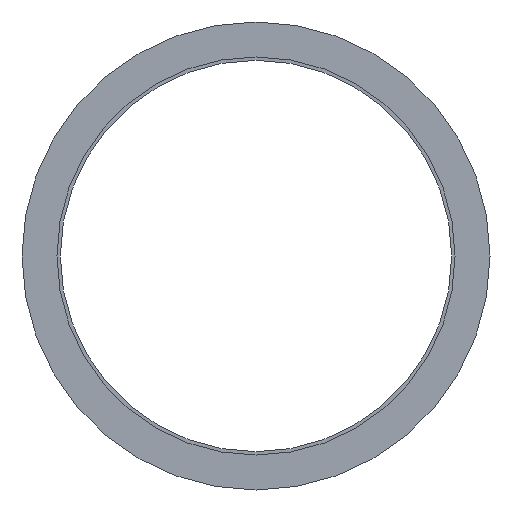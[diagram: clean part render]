
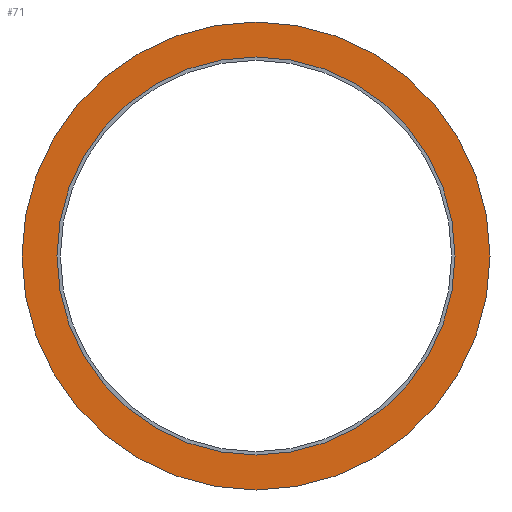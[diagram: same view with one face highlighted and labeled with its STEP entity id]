
A CAD part, front view. The second image highlights one B-rep face of the part: STEP entity #71.
In plain terms, the highlighted planar face has unit normal (0, -1, 0).
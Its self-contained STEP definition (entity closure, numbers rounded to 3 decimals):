
#27 = DIRECTION ( 'NONE',  ( 0., 0., -1. ) ) ;
#28 = VERTEX_POINT ( 'NONE', #40 ) ;
#40 = CARTESIAN_POINT ( 'NONE',  ( 0., 0., 76.55 ) ) ;
#41 = EDGE_CURVE ( 'NONE', #450, #205, #558, .T. ) ;
#50 = CARTESIAN_POINT ( 'NONE',  ( 0., 0., -90. ) ) ;
#71 = ADVANCED_FACE ( 'NONE', ( #531, #377 ), #181, .F. ) ;
#86 = CIRCLE ( 'NONE', #209, 90. ) ;
#96 = CARTESIAN_POINT ( 'NONE',  ( 0., 0., 0. ) ) ;
#142 = DIRECTION ( 'NONE',  ( 0., 0., 1. ) ) ;
#152 = CIRCLE ( 'NONE', #392, 76.55 ) ;
#160 = CIRCLE ( 'NONE', #546, 76.55 ) ;
#173 = EDGE_LOOP ( 'NONE', ( #186, #204 ) ) ;
#179 = EDGE_CURVE ( 'NONE', #28, #278, #152, .T. ) ;
#181 = PLANE ( 'NONE',  #583 ) ;
#183 = DIRECTION ( 'NONE',  ( 0., 0., -1. ) ) ;
#186 = ORIENTED_EDGE ( 'NONE', *, *, #345, .T. ) ;
#191 = DIRECTION ( 'NONE',  ( 0., -1., 0. ) ) ;
#204 = ORIENTED_EDGE ( 'NONE', *, *, #41, .T. ) ;
#205 = VERTEX_POINT ( 'NONE', #50 ) ;
#207 = DIRECTION ( 'NONE',  ( 0., 0., -1. ) ) ;
#209 = AXIS2_PLACEMENT_3D ( 'NONE', #304, #436, #207 ) ;
#227 = ORIENTED_EDGE ( 'NONE', *, *, #179, .F. ) ;
#239 = DIRECTION ( 'NONE',  ( 0., 1., 0. ) ) ;
#261 = CARTESIAN_POINT ( 'NONE',  ( 0., 0., -76.55 ) ) ;
#263 = CARTESIAN_POINT ( 'NONE',  ( 0., 0., 90. ) ) ;
#278 = VERTEX_POINT ( 'NONE', #261 ) ;
#280 = DIRECTION ( 'NONE',  ( 0., -1., 0. ) ) ;
#304 = CARTESIAN_POINT ( 'NONE',  ( 0., 0., 0. ) ) ;
#345 = EDGE_CURVE ( 'NONE', #205, #450, #86, .T. ) ;
#377 = FACE_OUTER_BOUND ( 'NONE', #173, .T. ) ;
#392 = AXIS2_PLACEMENT_3D ( 'NONE', #469, #191, #516 ) ;
#436 = DIRECTION ( 'NONE',  ( 0., -1., 0. ) ) ;
#450 = VERTEX_POINT ( 'NONE', #263 ) ;
#459 = EDGE_LOOP ( 'NONE', ( #581, #227 ) ) ;
#463 = CARTESIAN_POINT ( 'NONE',  ( 0., 0., 0. ) ) ;
#464 = DIRECTION ( 'NONE',  ( 0., -1., 0. ) ) ;
#468 = CARTESIAN_POINT ( 'NONE',  ( 0., 0., 90. ) ) ;
#469 = CARTESIAN_POINT ( 'NONE',  ( 0., 0., 0. ) ) ;
#516 = DIRECTION ( 'NONE',  ( 0., 0., -1. ) ) ;
#528 = EDGE_CURVE ( 'NONE', #278, #28, #160, .T. ) ;
#531 = FACE_BOUND ( 'NONE', #459, .T. ) ;
#546 = AXIS2_PLACEMENT_3D ( 'NONE', #463, #280, #27 ) ;
#553 = AXIS2_PLACEMENT_3D ( 'NONE', #96, #464, #183 ) ;
#558 = CIRCLE ( 'NONE', #553, 90. ) ;
#581 = ORIENTED_EDGE ( 'NONE', *, *, #528, .F. ) ;
#583 = AXIS2_PLACEMENT_3D ( 'NONE', #468, #239, #142 ) ;
